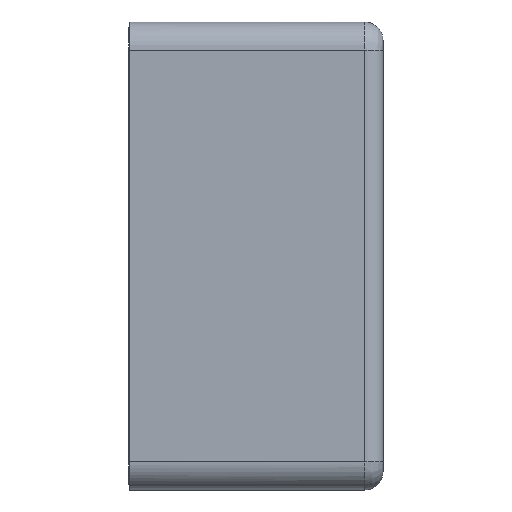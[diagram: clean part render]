
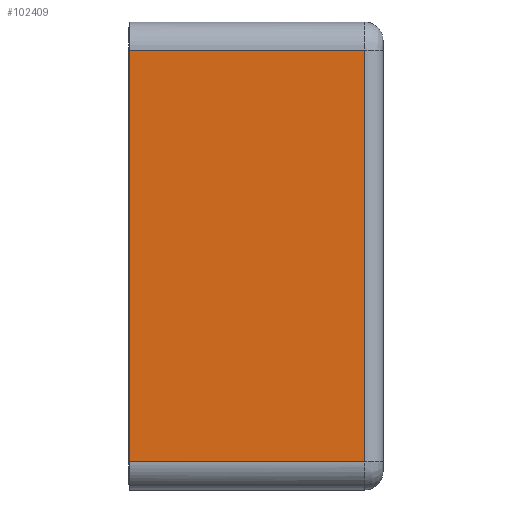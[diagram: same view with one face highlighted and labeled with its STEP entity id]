
A CAD part, left-side view. The second image highlights one B-rep face of the part: STEP entity #102409.
In plain terms, the highlighted planar face has unit normal (-1, 0, 0).
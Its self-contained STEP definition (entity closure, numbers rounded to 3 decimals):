
#93 = LINE ( 'NONE', #92903, #19158 ) ;
#1895 = CARTESIAN_POINT ( 'NONE',  ( -12.865, 0.165, -11.317 ) ) ;
#3720 = DIRECTION ( 'NONE',  ( 0., 1., 0. ) ) ;
#7214 = ORIENTED_EDGE ( 'NONE', *, *, #73039, .T. ) ;
#12797 = EDGE_CURVE ( 'NONE', #77828, #76502, #82128, .T. ) ;
#15748 = CARTESIAN_POINT ( 'NONE',  ( -12.865, -0.135, -11.317 ) ) ;
#19158 = VECTOR ( 'NONE', #3720, 39.37 ) ;
#20851 = CARTESIAN_POINT ( 'NONE',  ( -12.865, -0.135, -11.317 ) ) ;
#23871 = DIRECTION ( 'NONE',  ( 0., 0., 1. ) ) ;
#26803 = FACE_OUTER_BOUND ( 'NONE', #37437, .T. ) ;
#28956 = DIRECTION ( 'NONE',  ( 0., 1., 0. ) ) ;
#37091 = ORIENTED_EDGE ( 'NONE', *, *, #84472, .F. ) ;
#37437 = EDGE_LOOP ( 'NONE', ( #72346, #48431, #7214, #37091 ) ) ;
#40086 = LINE ( 'NONE', #47410, #105051 ) ;
#47410 = CARTESIAN_POINT ( 'NONE',  ( -12.865, 0.165, -11.317 ) ) ;
#48431 = ORIENTED_EDGE ( 'NONE', *, *, #12797, .T. ) ;
#49916 = VERTEX_POINT ( 'NONE', #1895 ) ;
#64388 = PLANE ( 'NONE',  #91940 ) ;
#70381 = EDGE_CURVE ( 'NONE', #77828, #49916, #87902, .T. ) ;
#72346 = ORIENTED_EDGE ( 'NONE', *, *, #70381, .F. ) ;
#72570 = DIRECTION ( 'NONE',  ( -1., 0., 0. ) ) ;
#73039 = EDGE_CURVE ( 'NONE', #76502, #75296, #93, .T. ) ;
#73225 = DIRECTION ( 'NONE',  ( 0., 0., 1. ) ) ;
#75296 = VERTEX_POINT ( 'NONE', #89490 ) ;
#76502 = VERTEX_POINT ( 'NONE', #104149 ) ;
#77049 = VECTOR ( 'NONE', #73225, 39.37 ) ;
#77828 = VERTEX_POINT ( 'NONE', #100979 ) ;
#81022 = CARTESIAN_POINT ( 'NONE',  ( -12.865, -12.756, 11.317 ) ) ;
#82128 = LINE ( 'NONE', #81022, #77049 ) ;
#84472 = EDGE_CURVE ( 'NONE', #49916, #75296, #40086, .T. ) ;
#85383 = VECTOR ( 'NONE', #28956, 39.37 ) ;
#87902 = LINE ( 'NONE', #20851, #85383 ) ;
#89490 = CARTESIAN_POINT ( 'NONE',  ( -12.865, 0.165, 11.317 ) ) ;
#91940 = AXIS2_PLACEMENT_3D ( 'NONE', #15748, #72570, #23871 ) ;
#92903 = CARTESIAN_POINT ( 'NONE',  ( -12.865, -0.135, 11.317 ) ) ;
#96132 = DIRECTION ( 'NONE',  ( 0., 0., 1. ) ) ;
#100979 = CARTESIAN_POINT ( 'NONE',  ( -12.865, -12.756, -11.317 ) ) ;
#102409 = ADVANCED_FACE ( 'NONE', ( #26803 ), #64388, .T. ) ;
#104149 = CARTESIAN_POINT ( 'NONE',  ( -12.865, -12.756, 11.317 ) ) ;
#105051 = VECTOR ( 'NONE', #96132, 39.37 ) ;
